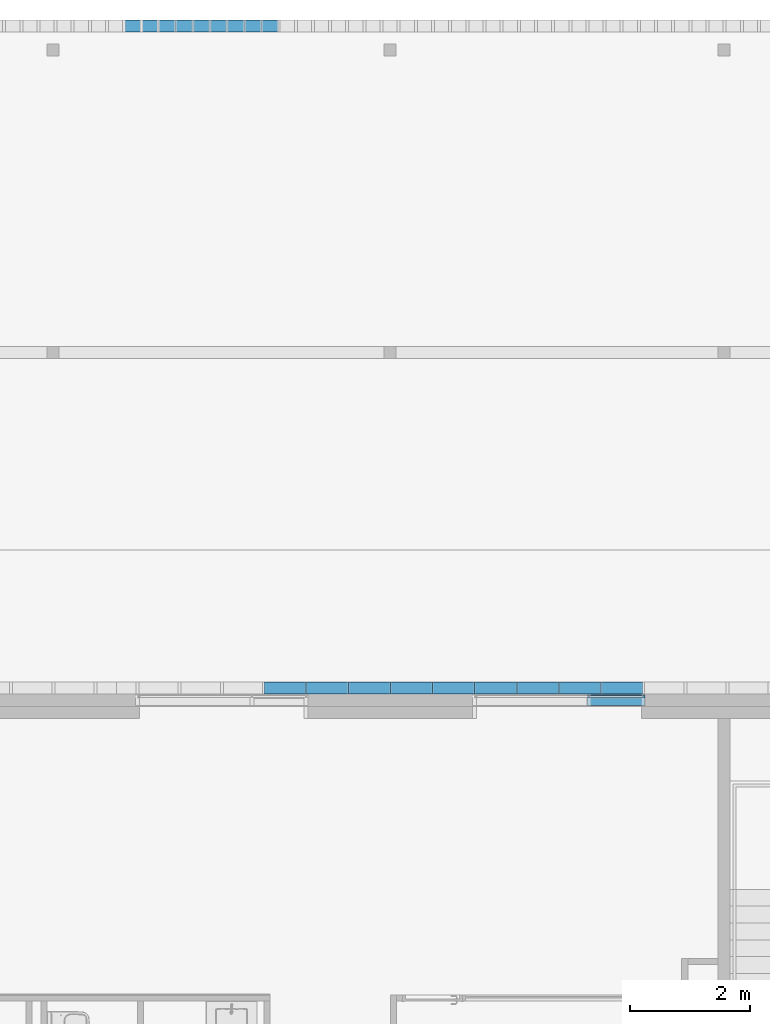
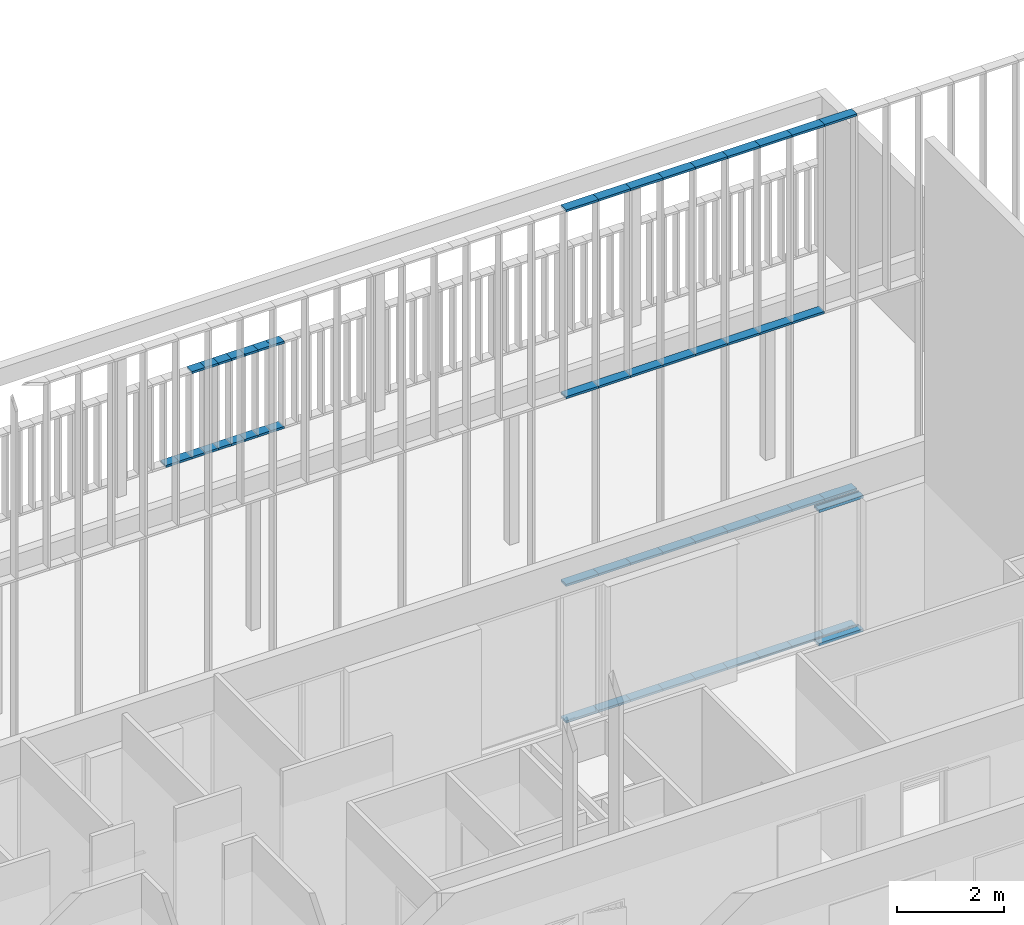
# One storey, part 54 of 240: 53 members, 3 elements without a shape of their own.
"""IFC2X3 building model written with IfcOpenShell, lengths in centimetres."""

from ifc_helpers import new_model, entity, si_unit, converted_unit, derived_unit, direction, frame, origin, origin_2d_with_axis, place, context, subcontext, project, spatial, polyline, rectangle, outline, extrude, source, transform, mapped, material, type_object, type_shapes, element, aggregate, save


model = new_model("IFC2X3")

# Units and contexts
model_context = context("Model", 3, precision=0.001, world=origin(), true_north=direction((6.12303176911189e-17, 1.0)))
body_context = subcontext(model_context, "Body", "Model", "MODEL_VIEW")
ifc_project = project(units=[si_unit("LENGTHUNIT", "METRE", prefix="CENTI"), si_unit("AREAUNIT", "SQUARE_METRE"), si_unit("VOLUMEUNIT", "CUBIC_METRE"), converted_unit("PLANEANGLEUNIT", "DEGREE", entity("IfcRatioMeasure", 0.0174532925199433), si_unit("PLANEANGLEUNIT", "RADIAN"), dimensions=[0, 0, 0, 0, 0, 0, 0]), si_unit("MASSUNIT", "GRAM", prefix="KILO"), derived_unit("MASSDENSITYUNIT", [(si_unit("MASSUNIT", "GRAM", prefix="KILO"), 1), (si_unit("LENGTHUNIT", "METRE"), -3)]), si_unit("TIMEUNIT", "SECOND"), si_unit("FREQUENCYUNIT", "HERTZ"), si_unit("THERMODYNAMICTEMPERATUREUNIT", "DEGREE_CELSIUS"), derived_unit("THERMALTRANSMITTANCEUNIT", [(si_unit("MASSUNIT", "GRAM", prefix="KILO"), 1), (si_unit("THERMODYNAMICTEMPERATUREUNIT", "KELVIN"), -1), (si_unit("TIMEUNIT", "SECOND"), -3)]), derived_unit("VOLUMETRICFLOWRATEUNIT", [(si_unit("LENGTHUNIT", "METRE"), 3), (si_unit("TIMEUNIT", "SECOND"), -1)]), si_unit("ELECTRICCURRENTUNIT", "AMPERE"), si_unit("ELECTRICVOLTAGEUNIT", "VOLT"), si_unit("POWERUNIT", "WATT"), si_unit("FORCEUNIT", "NEWTON", prefix="KILO"), si_unit("ILLUMINANCEUNIT", "LUX"), si_unit("LUMINOUSFLUXUNIT", "LUMEN"), si_unit("LUMINOUSINTENSITYUNIT", "CANDELA"), derived_unit("USERDEFINED", [(si_unit("MASSUNIT", "GRAM", prefix="KILO"), -1), (si_unit("LENGTHUNIT", "METRE"), -2), (si_unit("TIMEUNIT", "SECOND"), 3), (si_unit("LUMINOUSFLUXUNIT", "LUMEN"), 1)]), derived_unit("LINEARVELOCITYUNIT", [(si_unit("LENGTHUNIT", "METRE"), 1), (si_unit("TIMEUNIT", "SECOND"), -1)]), si_unit("PRESSUREUNIT", "PASCAL"), derived_unit("USERDEFINED", [(si_unit("LENGTHUNIT", "METRE"), -2), (si_unit("MASSUNIT", "GRAM", prefix="KILO"), 1), (si_unit("TIMEUNIT", "SECOND"), -2)])], contexts=[model_context])

# Site, building, storey
site_placement = place(None, frame((-2781.94577612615, 7442.24238424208, 0.0)))
site = spatial("IfcSite", under=ifc_project, at=site_placement, Name="Default", CompositionType="ELEMENT")
building_placement = place(site_placement, origin())
building = spatial("IfcBuilding", under=site, at=building_placement, CompositionType="ELEMENT")
storey_placement = place(building_placement, origin())
storey = spatial("IfcBuildingStorey", under=building, at=storey_placement, Name="N00 - COO", CompositionType="ELEMENT", Elevation=0.0)

# Curtain wall, members
curtain_wall_type_1 = type_object("IfcCurtainWallType", Name="Mur-rideau:07 - mur rideau trame 280 cm", PredefinedType="NOTDEFINED")
curtain_wall_1_placement = place(building_placement, origin())
curtain_wall_1 = element("IfcCurtainWall", 1, at=curtain_wall_1_placement, inside=storey, type_object=curtain_wall_type_1, Name="Mur-rideau:07 - mur rideau trame 280 cm", ObjectType="Mur-rideau:07 - mur rideau trame 280 cm")
ifc_material = material(Name="Aluminium")
member_type_1 = type_object("IfcMemberType", Name="150 x 25mm Détails", PredefinedType="MEMBER")
shared_shape_1 = source(origin(), body_context, "Body", "SweptSolid", [
    extrude(outline(polyline([(-5.6666666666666, -3.24999999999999), (-3.66666666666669, -3.24999999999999), (-3.66666666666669, -0.868749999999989), (-0.166666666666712, -0.868749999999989), (-0.166666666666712, -3.25000000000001), (13.3333333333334, -3.25000000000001), (13.3333333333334, 3.24999999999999), (-0.16666666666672, 3.24999999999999), (-0.16666666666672, 0.868749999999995), (-3.66666666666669, 0.868749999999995), (-3.66666666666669, 3.25), (-5.6666666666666, 3.25), (-5.6666666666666, -3.24999999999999)])), frame((-3.24999999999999, -1.96666666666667, -96.5000000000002), z_axis=(0.0, 0.0, 1.0), x_axis=(0.0, -1.0, 0.0)), (0.0, 0.0, 1.0), 96.5),
])
type_shapes(member_type_1, [shared_shape_1])
member_1_placement = place(building_placement, frame((-1062.54988284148, -1073.7999999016, 6.5), z_axis=(-1.0, 0.0, 0.0), x_axis=(0.0, 0.0, 1.0)))
member_1 = element("IfcMember", 2, at=member_1_placement, type_object=member_type_1, material=ifc_material, Name="Meneau rectangulaire:150 x 25mm Détails", ObjectType="Meneau rectangulaire:150 x 25mm Détails", context=body_context, shape_type="MappedRepresentation", body=[
    mapped(shared_shape_1, transform((0.0, 0.0, 0.0), scale=1.0)),
])
member_type_2 = type_object("IfcMemberType", Name="150 x 25mm Détails", PredefinedType="MEMBER")
shared_shape_2 = source(origin(), body_context, "Body", "SweptSolid", [
    extrude(outline(polyline([(-5.66666666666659, -3.25), (-3.66666666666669, -3.25), (-3.66666666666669, -0.868749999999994), (-0.166666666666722, -0.868749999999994), (-0.166666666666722, -3.25000000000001), (13.3333333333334, -3.24999999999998), (13.3333333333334, 3.25000000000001), (-0.166666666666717, 3.25000000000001), (-0.166666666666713, 0.868749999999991), (-3.66666666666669, 0.868749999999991), (-3.66666666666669, 3.24999999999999), (-5.66666666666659, 3.24999999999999), (-5.66666666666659, -3.25)])), frame((-3.24999999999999, -1.96666666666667, -96.5000000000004), z_axis=(0.0, 0.0, 1.0), x_axis=(0.0, -1.0, 0.0)), (0.0, 0.0, 1.0), 96.5),
])
type_shapes(member_type_2, [shared_shape_2])
member_2_placement = place(building_placement, frame((-966.049882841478, -1073.7999999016, 306.0), z_axis=(1.0, 0.0, 0.0), x_axis=(0.0, 0.0, -1.0)))
member_2 = element("IfcMember", 3, at=member_2_placement, type_object=member_type_2, material=ifc_material, Name="Meneau rectangulaire:150 x 25mm Détails", ObjectType="Meneau rectangulaire:150 x 25mm Détails", context=body_context, shape_type="MappedRepresentation", body=[
    mapped(shared_shape_2, transform((0.0, 0.0, 0.0), scale=1.0)),
])
aggregate(curtain_wall_1, [member_1, member_2])

curtain_wall_type_2 = type_object("IfcCurtainWallType", Name="Mur-rideau:Epines - 200x30mm", PredefinedType="NOTDEFINED")
curtain_wall_2_placement = place(storey_placement, origin())
curtain_wall_2 = element("IfcCurtainWall", 4, at=curtain_wall_2_placement, inside=storey, type_object=curtain_wall_type_2, Name="Mur-rideau:Epines - 200x30mm", ObjectType="Mur-rideau:Epines - 200x30mm")
member_type_3 = type_object("IfcMemberType", Name="200x50 mm", PredefinedType="MEMBER")
shared_shape_3 = source(origin(), body_context, "Body", "SweptSolid", [
    extrude(rectangle(XDim=20.0, YDim=5.0, at=origin_2d_with_axis()), frame((-2.5, 0.0, -70.0), z_axis=(0.0, 0.0, 1.0), x_axis=(0.0, -1.0, 0.0)), (0.0, 0.0, 1.0), 70.0000000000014),
])
type_shapes(member_type_3, [shared_shape_3])
member_3_placement = place(storey_placement, frame((-969.29988284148, -1060.0, 1176.0), z_axis=(1.0, 0.0, 0.0), x_axis=(0.0, 0.0, 1.0)))
member_3 = element("IfcMember", 5, at=member_3_placement, type_object=member_type_3, material=ifc_material, Name="Meneau rectangulaire:200x50 mm", ObjectType="Meneau rectangulaire:200x50 mm", context=body_context, shape_type="MappedRepresentation", body=[
    mapped(shared_shape_3, transform((0.0, 0.0, 0.0), scale=1.0)),
])
member_4_placement = place(storey_placement, frame((-1249.29988284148, -1060.0, 1176.0), z_axis=(1.0, 0.0, 0.0), x_axis=(0.0, 0.0, 1.0)))
member_4 = element("IfcMember", 6, at=member_4_placement, type_object=member_type_3, material=ifc_material, Name="Meneau rectangulaire:200x50 mm", ObjectType="Meneau rectangulaire:200x50 mm", context=body_context, shape_type="MappedRepresentation", body=[
    mapped(shared_shape_3, transform((0.0, 0.0, 0.0), scale=1.0)),
])
member_5_placement = place(storey_placement, frame((-1529.29988284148, -1060.0, 1176.0), z_axis=(1.0, 0.0, 0.0), x_axis=(0.0, 0.0, 1.0)))
member_5 = element("IfcMember", 7, at=member_5_placement, type_object=member_type_3, material=ifc_material, Name="Meneau rectangulaire:200x50 mm", ObjectType="Meneau rectangulaire:200x50 mm", context=body_context, shape_type="MappedRepresentation", body=[
    mapped(shared_shape_3, transform((0.0, 0.0, 0.0), scale=1.0)),
])
member_6_placement = place(storey_placement, frame((-1109.29988284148, -1060.0, 1176.0), z_axis=(1.0, 0.0, 0.0), x_axis=(0.0, 0.0, 1.0)))
member_6 = element("IfcMember", 8, at=member_6_placement, type_object=member_type_3, material=ifc_material, Name="Meneau rectangulaire:200x50 mm", ObjectType="Meneau rectangulaire:200x50 mm", context=body_context, shape_type="MappedRepresentation", body=[
    mapped(shared_shape_3, transform((0.0, 0.0, 0.0), scale=1.0)),
])
member_7_placement = place(storey_placement, frame((-1389.29988284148, -1060.0, 1176.0), z_axis=(1.0, 0.0, 0.0), x_axis=(0.0, 0.0, 1.0)))
member_7 = element("IfcMember", 9, at=member_7_placement, type_object=member_type_3, material=ifc_material, Name="Meneau rectangulaire:200x50 mm", ObjectType="Meneau rectangulaire:200x50 mm", context=body_context, shape_type="MappedRepresentation", body=[
    mapped(shared_shape_3, transform((0.0, 0.0, 0.0), scale=1.0)),
])
member_8_placement = place(storey_placement, frame((-1039.29988284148, -1060.0, 1176.0), z_axis=(1.0, 0.0, 0.0), x_axis=(0.0, 0.0, 1.0)))
member_8 = element("IfcMember", 10, at=member_8_placement, type_object=member_type_3, material=ifc_material, Name="Meneau rectangulaire:200x50 mm", ObjectType="Meneau rectangulaire:200x50 mm", context=body_context, shape_type="MappedRepresentation", body=[
    mapped(shared_shape_3, transform((0.0, 0.0, 0.0), scale=1.0)),
])
member_9_placement = place(storey_placement, frame((-1179.29988284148, -1060.0, 1176.0), z_axis=(1.0, 0.0, 0.0), x_axis=(0.0, 0.0, 1.0)))
member_9 = element("IfcMember", 11, at=member_9_placement, type_object=member_type_3, material=ifc_material, Name="Meneau rectangulaire:200x50 mm", ObjectType="Meneau rectangulaire:200x50 mm", context=body_context, shape_type="MappedRepresentation", body=[
    mapped(shared_shape_3, transform((0.0, 0.0, 0.0), scale=1.0)),
])
member_10_placement = place(storey_placement, frame((-1319.29988284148, -1060.0, 1176.0), z_axis=(1.0, 0.0, 0.0), x_axis=(0.0, 0.0, 1.0)))
member_10 = element("IfcMember", 12, at=member_10_placement, type_object=member_type_3, material=ifc_material, Name="Meneau rectangulaire:200x50 mm", ObjectType="Meneau rectangulaire:200x50 mm", context=body_context, shape_type="MappedRepresentation", body=[
    mapped(shared_shape_3, transform((0.0, 0.0, 0.0), scale=1.0)),
])
member_11_placement = place(storey_placement, frame((-1459.29988284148, -1060.0, 1176.0), z_axis=(1.0, 0.0, 0.0), x_axis=(0.0, 0.0, 1.0)))
member_11 = element("IfcMember", 13, at=member_11_placement, type_object=member_type_3, material=ifc_material, Name="Meneau rectangulaire:200x50 mm", ObjectType="Meneau rectangulaire:200x50 mm", context=body_context, shape_type="MappedRepresentation", body=[
    mapped(shared_shape_3, transform((0.0, 0.0, 0.0), scale=1.0)),
])
member_type_4 = type_object("IfcMemberType", Name="200x50 mm", PredefinedType="MEMBER")
shared_shape_4 = source(origin(), body_context, "Body", "SweptSolid", [
    extrude(rectangle(XDim=20.0, YDim=5.0, at=origin_2d_with_axis()), frame((-2.5, 0.0, -70.0), z_axis=(0.0, 0.0, 1.0), x_axis=(0.0, -1.0, 0.0)), (0.0, 0.0, 1.0), 70.0000000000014),
])
type_shapes(member_type_4, [shared_shape_4])
member_12_placement = place(storey_placement, frame((-1249.29988284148, -1060.0, 0.0), z_axis=(-1.0, 0.0, 0.0), x_axis=(0.0, 0.0, -1.0)))
member_12 = element("IfcMember", 14, at=member_12_placement, type_object=member_type_4, material=ifc_material, Name="Meneau rectangulaire:200x50 mm", ObjectType="Meneau rectangulaire:200x50 mm", context=body_context, shape_type="MappedRepresentation", body=[
    mapped(shared_shape_4, transform((0.0, 0.0, 0.0), scale=1.0)),
])
member_13_placement = place(storey_placement, frame((-1529.29988284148, -1060.0, 0.0), z_axis=(-1.0, 0.0, 0.0), x_axis=(0.0, 0.0, -1.0)))
member_13 = element("IfcMember", 15, at=member_13_placement, type_object=member_type_4, material=ifc_material, Name="Meneau rectangulaire:200x50 mm", ObjectType="Meneau rectangulaire:200x50 mm", context=body_context, shape_type="MappedRepresentation", body=[
    mapped(shared_shape_4, transform((0.0, 0.0, 0.0), scale=1.0)),
])
member_type_5 = type_object("IfcMemberType", Name="200x50 mm", PredefinedType="MEMBER")
shared_shape_5 = source(origin(), body_context, "Body", "SweptSolid", [
    extrude(rectangle(XDim=20.0, YDim=5.0, at=origin_2d_with_axis()), frame((0.0, 0.0, -70.0), z_axis=(0.0, 0.0, 1.0), x_axis=(0.0, -1.0, 0.0)), (0.0, 0.0, 1.0), 70.0000000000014),
])
type_shapes(member_type_5, [shared_shape_5])
member_14_placement = place(storey_placement, frame((-1179.29988284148, -1060.0, 315.5), z_axis=(1.0, 0.0, 0.0), x_axis=(0.0, 0.0, 1.0)))
member_14 = element("IfcMember", 16, at=member_14_placement, type_object=member_type_5, material=ifc_material, Name="Meneau rectangulaire:200x50 mm", ObjectType="Meneau rectangulaire:200x50 mm", context=body_context, shape_type="MappedRepresentation", body=[
    mapped(shared_shape_5, transform((0.0, 0.0, 0.0), scale=1.0)),
])
member_15_placement = place(storey_placement, frame((-1459.29988284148, -1060.0, 315.5), z_axis=(1.0, 0.0, 0.0), x_axis=(0.0, 0.0, 1.0)))
member_15 = element("IfcMember", 17, at=member_15_placement, type_object=member_type_5, material=ifc_material, Name="Meneau rectangulaire:200x50 mm", ObjectType="Meneau rectangulaire:200x50 mm", context=body_context, shape_type="MappedRepresentation", body=[
    mapped(shared_shape_5, transform((0.0, 0.0, 0.0), scale=1.0)),
])
member_16_placement = place(storey_placement, frame((-1039.29988284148, -1060.0, 315.5), z_axis=(1.0, 0.0, 0.0), x_axis=(0.0, 0.0, 1.0)))
member_16 = element("IfcMember", 18, at=member_16_placement, type_object=member_type_5, material=ifc_material, Name="Meneau rectangulaire:200x50 mm", ObjectType="Meneau rectangulaire:200x50 mm", context=body_context, shape_type="MappedRepresentation", body=[
    mapped(shared_shape_5, transform((0.0, 0.0, 0.0), scale=1.0)),
])
member_17_placement = place(storey_placement, frame((-1319.29988284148, -1060.0, 315.5), z_axis=(1.0, 0.0, 0.0), x_axis=(0.0, 0.0, 1.0)))
member_17 = element("IfcMember", 19, at=member_17_placement, type_object=member_type_5, material=ifc_material, Name="Meneau rectangulaire:200x50 mm", ObjectType="Meneau rectangulaire:200x50 mm", context=body_context, shape_type="MappedRepresentation", body=[
    mapped(shared_shape_5, transform((0.0, 0.0, 0.0), scale=1.0)),
])
member_type_6 = type_object("IfcMemberType", Name="200x50 mm", PredefinedType="MEMBER")
shared_shape_6 = source(origin(), body_context, "Body", "SweptSolid", [
    extrude(rectangle(XDim=20.0, YDim=5.0, at=origin_2d_with_axis()), frame((0.0, 0.0, -70.0), z_axis=(0.0, 0.0, 1.0), x_axis=(0.0, -1.0, 0.0)), (0.0, 0.0, 1.0), 70.0000000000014),
])
type_shapes(member_type_6, [shared_shape_6])
member_18_placement = place(storey_placement, frame((-1179.29988284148, -1060.0, 745.5), z_axis=(1.0, 0.0, 0.0), x_axis=(0.0, 0.0, 1.0)))
member_18 = element("IfcMember", 20, at=member_18_placement, type_object=member_type_6, material=ifc_material, Name="Meneau rectangulaire:200x50 mm", ObjectType="Meneau rectangulaire:200x50 mm", context=body_context, shape_type="MappedRepresentation", body=[
    mapped(shared_shape_6, transform((0.0, 0.0, 0.0), scale=1.0)),
])
member_19_placement = place(storey_placement, frame((-1459.29988284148, -1060.0, 745.5), z_axis=(1.0, 0.0, 0.0), x_axis=(0.0, 0.0, 1.0)))
member_19 = element("IfcMember", 21, at=member_19_placement, type_object=member_type_6, material=ifc_material, Name="Meneau rectangulaire:200x50 mm", ObjectType="Meneau rectangulaire:200x50 mm", context=body_context, shape_type="MappedRepresentation", body=[
    mapped(shared_shape_6, transform((0.0, 0.0, 0.0), scale=1.0)),
])
member_20_placement = place(storey_placement, frame((-1039.29988284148, -1060.0, 745.5), z_axis=(1.0, 0.0, 0.0), x_axis=(0.0, 0.0, 1.0)))
member_20 = element("IfcMember", 22, at=member_20_placement, type_object=member_type_6, material=ifc_material, Name="Meneau rectangulaire:200x50 mm", ObjectType="Meneau rectangulaire:200x50 mm", context=body_context, shape_type="MappedRepresentation", body=[
    mapped(shared_shape_6, transform((0.0, 0.0, 0.0), scale=1.0)),
])
member_21_placement = place(storey_placement, frame((-1319.29988284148, -1060.0, 745.5), z_axis=(1.0, 0.0, 0.0), x_axis=(0.0, 0.0, 1.0)))
member_21 = element("IfcMember", 23, at=member_21_placement, type_object=member_type_6, material=ifc_material, Name="Meneau rectangulaire:200x50 mm", ObjectType="Meneau rectangulaire:200x50 mm", context=body_context, shape_type="MappedRepresentation", body=[
    mapped(shared_shape_6, transform((0.0, 0.0, 0.0), scale=1.0)),
])
member_22_placement = place(storey_placement, frame((-1109.29988284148, -1060.0, 745.5), z_axis=(1.0, 0.0, 0.0), x_axis=(0.0, 0.0, 1.0)))
member_22 = element("IfcMember", 24, at=member_22_placement, type_object=member_type_6, material=ifc_material, Name="Meneau rectangulaire:200x50 mm", ObjectType="Meneau rectangulaire:200x50 mm", context=body_context, shape_type="MappedRepresentation", body=[
    mapped(shared_shape_6, transform((0.0, 0.0, 0.0), scale=1.0)),
])
member_23_placement = place(storey_placement, frame((-1249.29988284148, -1060.0, 745.5), z_axis=(1.0, 0.0, 0.0), x_axis=(0.0, 0.0, 1.0)))
member_23 = element("IfcMember", 25, at=member_23_placement, type_object=member_type_6, material=ifc_material, Name="Meneau rectangulaire:200x50 mm", ObjectType="Meneau rectangulaire:200x50 mm", context=body_context, shape_type="MappedRepresentation", body=[
    mapped(shared_shape_6, transform((0.0, 0.0, 0.0), scale=1.0)),
])
member_24_placement = place(storey_placement, frame((-1389.29988284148, -1060.0, 745.5), z_axis=(1.0, 0.0, 0.0), x_axis=(0.0, 0.0, 1.0)))
member_24 = element("IfcMember", 26, at=member_24_placement, type_object=member_type_6, material=ifc_material, Name="Meneau rectangulaire:200x50 mm", ObjectType="Meneau rectangulaire:200x50 mm", context=body_context, shape_type="MappedRepresentation", body=[
    mapped(shared_shape_6, transform((0.0, 0.0, 0.0), scale=1.0)),
])
member_25_placement = place(storey_placement, frame((-1529.29988284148, -1060.0, 745.5), z_axis=(1.0, 0.0, 0.0), x_axis=(0.0, 0.0, 1.0)))
member_25 = element("IfcMember", 27, at=member_25_placement, type_object=member_type_6, material=ifc_material, Name="Meneau rectangulaire:200x50 mm", ObjectType="Meneau rectangulaire:200x50 mm", context=body_context, shape_type="MappedRepresentation", body=[
    mapped(shared_shape_6, transform((0.0, 0.0, 0.0), scale=1.0)),
])
member_type_7 = type_object("IfcMemberType", Name="200x50 mm", PredefinedType="MEMBER")
shared_shape_7 = source(origin(), body_context, "Body", "SweptSolid", [
    extrude(rectangle(XDim=20.0, YDim=5.0, at=origin_2d_with_axis()), frame((-2.5, 0.0, -70.0), z_axis=(0.0, 0.0, 1.0), x_axis=(0.0, -1.0, 0.0)), (0.0, 0.0, 1.0), 69.9999999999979),
])
type_shapes(member_type_7, [shared_shape_7])
member_26_placement = place(storey_placement, frame((-1109.29988284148, -1060.0, 0.0), z_axis=(-1.0, 0.0, 0.0), x_axis=(0.0, 0.0, -1.0)))
member_26 = element("IfcMember", 28, at=member_26_placement, type_object=member_type_7, material=ifc_material, Name="Meneau rectangulaire:200x50 mm", ObjectType="Meneau rectangulaire:200x50 mm", context=body_context, shape_type="MappedRepresentation", body=[
    mapped(shared_shape_7, transform((0.0, 0.0, 0.0), scale=1.0)),
])
member_27_placement = place(storey_placement, frame((-1389.29988284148, -1060.0, 0.0), z_axis=(-1.0, 0.0, 0.0), x_axis=(0.0, 0.0, -1.0)))
member_27 = element("IfcMember", 29, at=member_27_placement, type_object=member_type_7, material=ifc_material, Name="Meneau rectangulaire:200x50 mm", ObjectType="Meneau rectangulaire:200x50 mm", context=body_context, shape_type="MappedRepresentation", body=[
    mapped(shared_shape_7, transform((0.0, 0.0, 0.0), scale=1.0)),
])
member_28_placement = place(storey_placement, frame((-1179.29988284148, -1060.0, 0.0), z_axis=(-1.0, 0.0, 0.0), x_axis=(0.0, 0.0, -1.0)))
member_28 = element("IfcMember", 30, at=member_28_placement, type_object=member_type_7, material=ifc_material, Name="Meneau rectangulaire:200x50 mm", ObjectType="Meneau rectangulaire:200x50 mm", context=body_context, shape_type="MappedRepresentation", body=[
    mapped(shared_shape_7, transform((0.0, 0.0, 0.0), scale=1.0)),
])
member_29_placement = place(storey_placement, frame((-1459.29988284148, -1060.0, 0.0), z_axis=(-1.0, 0.0, 0.0), x_axis=(0.0, 0.0, -1.0)))
member_29 = element("IfcMember", 31, at=member_29_placement, type_object=member_type_7, material=ifc_material, Name="Meneau rectangulaire:200x50 mm", ObjectType="Meneau rectangulaire:200x50 mm", context=body_context, shape_type="MappedRepresentation", body=[
    mapped(shared_shape_7, transform((0.0, 0.0, 0.0), scale=1.0)),
])
member_type_8 = type_object("IfcMemberType", Name="200x50 mm", PredefinedType="MEMBER")
shared_shape_8 = source(origin(), body_context, "Body", "SweptSolid", [
    extrude(rectangle(XDim=20.0, YDim=5.0, at=origin_2d_with_axis()), frame((0.0, 0.0, -70.0), z_axis=(0.0, 0.0, 1.0), x_axis=(0.0, -1.0, 0.0)), (0.0, 0.0, 1.0), 70.0000000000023),
])
type_shapes(member_type_8, [shared_shape_8])
member_30_placement = place(storey_placement, frame((-969.29988284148, -1060.0, 315.5), z_axis=(1.0, 0.0, 0.0), x_axis=(0.0, 0.0, 1.0)))
member_30 = element("IfcMember", 32, at=member_30_placement, type_object=member_type_8, material=ifc_material, Name="Meneau rectangulaire:200x50 mm", ObjectType="Meneau rectangulaire:200x50 mm", context=body_context, shape_type="MappedRepresentation", body=[
    mapped(shared_shape_8, transform((0.0, 0.0, 0.0), scale=1.0)),
])
member_31_placement = place(storey_placement, frame((-1109.29988284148, -1060.0, 315.5), z_axis=(1.0, 0.0, 0.0), x_axis=(0.0, 0.0, 1.0)))
member_31 = element("IfcMember", 33, at=member_31_placement, type_object=member_type_8, material=ifc_material, Name="Meneau rectangulaire:200x50 mm", ObjectType="Meneau rectangulaire:200x50 mm", context=body_context, shape_type="MappedRepresentation", body=[
    mapped(shared_shape_8, transform((0.0, 0.0, 0.0), scale=1.0)),
])
member_32_placement = place(storey_placement, frame((-1249.29988284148, -1060.0, 315.5), z_axis=(1.0, 0.0, 0.0), x_axis=(0.0, 0.0, 1.0)))
member_32 = element("IfcMember", 34, at=member_32_placement, type_object=member_type_8, material=ifc_material, Name="Meneau rectangulaire:200x50 mm", ObjectType="Meneau rectangulaire:200x50 mm", context=body_context, shape_type="MappedRepresentation", body=[
    mapped(shared_shape_8, transform((0.0, 0.0, 0.0), scale=1.0)),
])
member_33_placement = place(storey_placement, frame((-1389.29988284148, -1060.0, 315.5), z_axis=(1.0, 0.0, 0.0), x_axis=(0.0, 0.0, 1.0)))
member_33 = element("IfcMember", 35, at=member_33_placement, type_object=member_type_8, material=ifc_material, Name="Meneau rectangulaire:200x50 mm", ObjectType="Meneau rectangulaire:200x50 mm", context=body_context, shape_type="MappedRepresentation", body=[
    mapped(shared_shape_8, transform((0.0, 0.0, 0.0), scale=1.0)),
])
member_34_placement = place(storey_placement, frame((-1529.29988284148, -1060.0, 315.5), z_axis=(1.0, 0.0, 0.0), x_axis=(0.0, 0.0, 1.0)))
member_34 = element("IfcMember", 36, at=member_34_placement, type_object=member_type_8, material=ifc_material, Name="Meneau rectangulaire:200x50 mm", ObjectType="Meneau rectangulaire:200x50 mm", context=body_context, shape_type="MappedRepresentation", body=[
    mapped(shared_shape_8, transform((0.0, 0.0, 0.0), scale=1.0)),
])
member_type_9 = type_object("IfcMemberType", Name="200x50 mm", PredefinedType="MEMBER")
shared_shape_9 = source(origin(), body_context, "Body", "SweptSolid", [
    extrude(rectangle(XDim=20.0, YDim=5.0, at=origin_2d_with_axis()), frame((-2.5, 0.0, -70.0), z_axis=(0.0, 0.0, 1.0), x_axis=(0.0, -1.0, 0.0)), (0.0, 0.0, 1.0), 70.0000000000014),
])
type_shapes(member_type_9, [shared_shape_9])
member_35_placement = place(storey_placement, frame((-1039.29988284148, -1060.0, 0.0), z_axis=(-1.0, 0.0, 0.0), x_axis=(0.0, 0.0, -1.0)))
member_35 = element("IfcMember", 37, at=member_35_placement, type_object=member_type_9, material=ifc_material, Name="Meneau rectangulaire:200x50 mm", ObjectType="Meneau rectangulaire:200x50 mm", context=body_context, shape_type="MappedRepresentation", body=[
    mapped(shared_shape_9, transform((0.0, 0.0, 0.0), scale=1.0)),
])
member_36_placement = place(storey_placement, frame((-1319.29988284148, -1060.0, 0.0), z_axis=(-1.0, 0.0, 0.0), x_axis=(0.0, 0.0, -1.0)))
member_36 = element("IfcMember", 38, at=member_36_placement, type_object=member_type_9, material=ifc_material, Name="Meneau rectangulaire:200x50 mm", ObjectType="Meneau rectangulaire:200x50 mm", context=body_context, shape_type="MappedRepresentation", body=[
    mapped(shared_shape_9, transform((0.0, 0.0, 0.0), scale=1.0)),
])
member_37_placement = place(storey_placement, frame((-1599.29988284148, -1060.0, 0.0), z_axis=(-1.0, 0.0, 0.0), x_axis=(0.0, 0.0, -1.0)))
member_37 = element("IfcMember", 39, at=member_37_placement, type_object=member_type_9, material=ifc_material, Name="Meneau rectangulaire:200x50 mm", ObjectType="Meneau rectangulaire:200x50 mm", context=body_context, shape_type="MappedRepresentation", body=[
    mapped(shared_shape_9, transform((0.0, 0.0, 0.0), scale=1.0)),
])
aggregate(curtain_wall_2, [member_3, member_4, member_12, member_14, member_18, member_5, member_13, member_15, member_19, member_6, member_26, member_16, member_20, member_7, member_27, member_17, member_21, member_8, member_35, member_30, member_9, member_28, member_31, member_22, member_10, member_36, member_32, member_23, member_11, member_29, member_33, member_24, member_37, member_34, member_25])

curtain_wall_type_3 = type_object("IfcCurtainWallType", Name="Mur-rideau:SR-Clôture", PredefinedType="NOTDEFINED")
curtain_wall_3_placement = place(building_placement, origin())
curtain_wall_3 = element("IfcCurtainWall", 40, at=curtain_wall_3_placement, inside=storey, type_object=curtain_wall_type_3, Name="Mur-rideau:SR-Clôture", ObjectType="Mur-rideau:SR-Clôture")
member_type_10 = type_object("IfcMemberType", Name="Epine nord (200x50 mm)", PredefinedType="MEMBER")
shared_shape_10 = source(origin(), body_context, "Body", "SweptSolid", [
    extrude(rectangle(XDim=20.0, YDim=5.0, at=origin_2d_with_axis()), frame((-2.5, 0.0, -28.5000000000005), z_axis=(0.0, 0.0, 1.0), x_axis=(0.0, -1.0, 0.0)), (0.0, 0.0, 1.0), 28.5000000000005),
])
type_shapes(member_type_10, [shared_shape_10])
member_38_placement = place(building_placement, frame((-1745.99987965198, 40.0, 200.0), z_axis=(1.0, 0.0, 0.0), x_axis=(0.0, 0.0, 1.0)))
member_38 = element("IfcMember", 41, at=member_38_placement, type_object=member_type_10, material=ifc_material, Name="Meneau rectangulaire:Epine nord (200x50 mm)", ObjectType="Meneau rectangulaire:Epine nord (200x50 mm)", context=body_context, shape_type="MappedRepresentation", body=[
    mapped(shared_shape_10, transform((0.0, 0.0, 0.0), scale=1.0)),
])
member_39_placement = place(building_placement, frame((-1717.49987965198, 40.0, 200.0), z_axis=(1.0, 0.0, 0.0), x_axis=(0.0, 0.0, 1.0)))
member_39 = element("IfcMember", 42, at=member_39_placement, type_object=member_type_10, material=ifc_material, Name="Meneau rectangulaire:Epine nord (200x50 mm)", ObjectType="Meneau rectangulaire:Epine nord (200x50 mm)", context=body_context, shape_type="MappedRepresentation", body=[
    mapped(shared_shape_10, transform((0.0, 0.0, 0.0), scale=1.0)),
])
member_40_placement = place(building_placement, frame((-1688.99987965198, 40.0, 200.0), z_axis=(1.0, 0.0, 0.0), x_axis=(0.0, 0.0, 1.0)))
member_40 = element("IfcMember", 43, at=member_40_placement, type_object=member_type_10, material=ifc_material, Name="Meneau rectangulaire:Epine nord (200x50 mm)", ObjectType="Meneau rectangulaire:Epine nord (200x50 mm)", context=body_context, shape_type="MappedRepresentation", body=[
    mapped(shared_shape_10, transform((0.0, 0.0, 0.0), scale=1.0)),
])
member_41_placement = place(building_placement, frame((-1660.49987965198, 40.0, 200.0), z_axis=(1.0, 0.0, 0.0), x_axis=(0.0, 0.0, 1.0)))
member_41 = element("IfcMember", 44, at=member_41_placement, type_object=member_type_10, material=ifc_material, Name="Meneau rectangulaire:Epine nord (200x50 mm)", ObjectType="Meneau rectangulaire:Epine nord (200x50 mm)", context=body_context, shape_type="MappedRepresentation", body=[
    mapped(shared_shape_10, transform((0.0, 0.0, 0.0), scale=1.0)),
])
member_42_placement = place(building_placement, frame((-1631.99987965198, 40.0, 200.0), z_axis=(1.0, 0.0, 0.0), x_axis=(0.0, 0.0, 1.0)))
member_42 = element("IfcMember", 45, at=member_42_placement, type_object=member_type_10, material=ifc_material, Name="Meneau rectangulaire:Epine nord (200x50 mm)", ObjectType="Meneau rectangulaire:Epine nord (200x50 mm)", context=body_context, shape_type="MappedRepresentation", body=[
    mapped(shared_shape_10, transform((0.0, 0.0, 0.0), scale=1.0)),
])
member_43_placement = place(building_placement, frame((-1603.49987965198, 40.0, 200.0), z_axis=(1.0, 0.0, 0.0), x_axis=(0.0, 0.0, 1.0)))
member_43 = element("IfcMember", 46, at=member_43_placement, type_object=member_type_10, material=ifc_material, Name="Meneau rectangulaire:Epine nord (200x50 mm)", ObjectType="Meneau rectangulaire:Epine nord (200x50 mm)", context=body_context, shape_type="MappedRepresentation", body=[
    mapped(shared_shape_10, transform((0.0, 0.0, 0.0), scale=1.0)),
])
member_44_placement = place(building_placement, frame((-1574.99987965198, 40.0, 200.0), z_axis=(1.0, 0.0, 0.0), x_axis=(0.0, 0.0, 1.0)))
member_44 = element("IfcMember", 47, at=member_44_placement, type_object=member_type_10, material=ifc_material, Name="Meneau rectangulaire:Epine nord (200x50 mm)", ObjectType="Meneau rectangulaire:Epine nord (200x50 mm)", context=body_context, shape_type="MappedRepresentation", body=[
    mapped(shared_shape_10, transform((0.0, 0.0, 0.0), scale=1.0)),
])
member_type_11 = type_object("IfcMemberType", Name="Epine nord (200x50 mm)", PredefinedType="MEMBER")
shared_shape_11 = source(origin(), body_context, "Body", "SweptSolid", [
    extrude(rectangle(XDim=20.0, YDim=5.0, at=origin_2d_with_axis()), frame((-2.5, 0.0, -28.5000000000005), z_axis=(0.0, 0.0, 1.0), x_axis=(0.0, -1.0, 0.0)), (0.0, 0.0, 1.0), 28.5000000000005),
])
type_shapes(member_type_11, [shared_shape_11])
member_45_placement = place(building_placement, frame((-1831.49987965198, 40.0, 0.0), z_axis=(-1.0, 0.0, 0.0), x_axis=(0.0, 0.0, -1.0)))
member_45 = element("IfcMember", 48, at=member_45_placement, type_object=member_type_11, material=ifc_material, Name="Meneau rectangulaire:Epine nord (200x50 mm)", ObjectType="Meneau rectangulaire:Epine nord (200x50 mm)", context=body_context, shape_type="MappedRepresentation", body=[
    mapped(shared_shape_11, transform((0.0, 0.0, 0.0), scale=1.0)),
])
member_46_placement = place(building_placement, frame((-1802.99987965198, 40.0, 0.0), z_axis=(-1.0, 0.0, 0.0), x_axis=(0.0, 0.0, -1.0)))
member_46 = element("IfcMember", 49, at=member_46_placement, type_object=member_type_11, material=ifc_material, Name="Meneau rectangulaire:Epine nord (200x50 mm)", ObjectType="Meneau rectangulaire:Epine nord (200x50 mm)", context=body_context, shape_type="MappedRepresentation", body=[
    mapped(shared_shape_11, transform((0.0, 0.0, 0.0), scale=1.0)),
])
member_47_placement = place(building_placement, frame((-1774.49987965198, 40.0, 0.0), z_axis=(-1.0, 0.0, 0.0), x_axis=(0.0, 0.0, -1.0)))
member_47 = element("IfcMember", 50, at=member_47_placement, type_object=member_type_11, material=ifc_material, Name="Meneau rectangulaire:Epine nord (200x50 mm)", ObjectType="Meneau rectangulaire:Epine nord (200x50 mm)", context=body_context, shape_type="MappedRepresentation", body=[
    mapped(shared_shape_11, transform((0.0, 0.0, 0.0), scale=1.0)),
])
member_48_placement = place(building_placement, frame((-1745.99987965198, 40.0, 0.0), z_axis=(-1.0, 0.0, 0.0), x_axis=(0.0, 0.0, -1.0)))
member_48 = element("IfcMember", 51, at=member_48_placement, type_object=member_type_11, material=ifc_material, Name="Meneau rectangulaire:Epine nord (200x50 mm)", ObjectType="Meneau rectangulaire:Epine nord (200x50 mm)", context=body_context, shape_type="MappedRepresentation", body=[
    mapped(shared_shape_11, transform((0.0, 0.0, 0.0), scale=1.0)),
])
member_49_placement = place(building_placement, frame((-1717.49987965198, 40.0, 0.0), z_axis=(-1.0, 0.0, 0.0), x_axis=(0.0, 0.0, -1.0)))
member_49 = element("IfcMember", 52, at=member_49_placement, type_object=member_type_11, material=ifc_material, Name="Meneau rectangulaire:Epine nord (200x50 mm)", ObjectType="Meneau rectangulaire:Epine nord (200x50 mm)", context=body_context, shape_type="MappedRepresentation", body=[
    mapped(shared_shape_11, transform((0.0, 0.0, 0.0), scale=1.0)),
])
member_50_placement = place(building_placement, frame((-1688.99987965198, 40.0, 0.0), z_axis=(-1.0, 0.0, 0.0), x_axis=(0.0, 0.0, -1.0)))
member_50 = element("IfcMember", 53, at=member_50_placement, type_object=member_type_11, material=ifc_material, Name="Meneau rectangulaire:Epine nord (200x50 mm)", ObjectType="Meneau rectangulaire:Epine nord (200x50 mm)", context=body_context, shape_type="MappedRepresentation", body=[
    mapped(shared_shape_11, transform((0.0, 0.0, 0.0), scale=1.0)),
])
member_51_placement = place(building_placement, frame((-1660.49987965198, 40.0, 0.0), z_axis=(-1.0, 0.0, 0.0), x_axis=(0.0, 0.0, -1.0)))
member_51 = element("IfcMember", 54, at=member_51_placement, type_object=member_type_11, material=ifc_material, Name="Meneau rectangulaire:Epine nord (200x50 mm)", ObjectType="Meneau rectangulaire:Epine nord (200x50 mm)", context=body_context, shape_type="MappedRepresentation", body=[
    mapped(shared_shape_11, transform((0.0, 0.0, 0.0), scale=1.0)),
])
member_52_placement = place(building_placement, frame((-1631.99987965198, 40.0, 0.0), z_axis=(-1.0, 0.0, 0.0), x_axis=(0.0, 0.0, -1.0)))
member_52 = element("IfcMember", 55, at=member_52_placement, type_object=member_type_11, material=ifc_material, Name="Meneau rectangulaire:Epine nord (200x50 mm)", ObjectType="Meneau rectangulaire:Epine nord (200x50 mm)", context=body_context, shape_type="MappedRepresentation", body=[
    mapped(shared_shape_11, transform((0.0, 0.0, 0.0), scale=1.0)),
])
member_53_placement = place(building_placement, frame((-1603.49987965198, 40.0, 0.0), z_axis=(-1.0, 0.0, 0.0), x_axis=(0.0, 0.0, -1.0)))
member_53 = element("IfcMember", 56, at=member_53_placement, type_object=member_type_11, material=ifc_material, Name="Meneau rectangulaire:Epine nord (200x50 mm)", ObjectType="Meneau rectangulaire:Epine nord (200x50 mm)", context=body_context, shape_type="MappedRepresentation", body=[
    mapped(shared_shape_11, transform((0.0, 0.0, 0.0), scale=1.0)),
])
aggregate(curtain_wall_3, [member_38, member_39, member_40, member_41, member_42, member_43, member_44, member_45, member_46, member_47, member_48, member_49, member_50, member_51, member_52, member_53])

save(model, "model.ifc")
